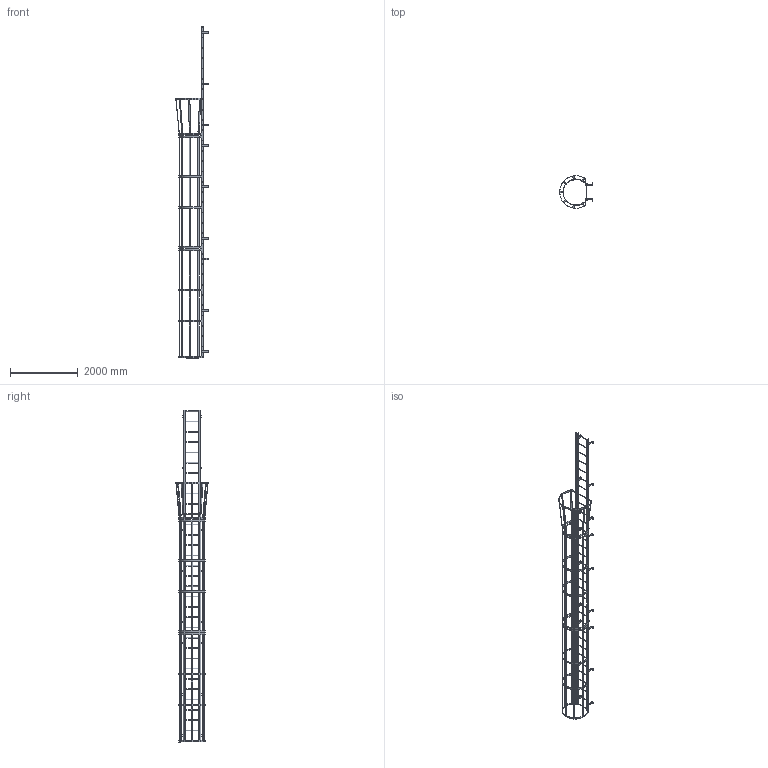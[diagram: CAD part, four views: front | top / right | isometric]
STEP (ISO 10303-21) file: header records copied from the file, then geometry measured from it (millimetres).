
FILE_DESCRIPTION(/* description */ (''),/* implementation_level */ '2;1');
FILE_NAME(/* name */ 'P:\MIKEL & KAREN\D0570195-19 F33SC SIMPLIFIED PART.stp',/* time_stamp */ '2018-07-03T08:11:45-04:00',/* author */ ('stephanie'),/* organization */ (''),/* preprocessor_version */ 'ST-DEVELOPER v16.1',/* originating_system */ 'Autodesk Inventor 2016',/* authorisation */ '');
FILE_SCHEMA (('AUTOMOTIVE_DESIGN { 1 0 10303 214 3 1 1 }'));
Length unit declared in the file: centimetre
Products named in the file (1): D0570195-19 F33SC SIMPLIFIED PART
Bounding box: 974.15 x 977.88 x 9829.8 mm (x, y, z)
Volume: 33552079.4 mm3; surface area: 11920917.3 mm2
Topology: 44 solids, 44 shells, 971 faces, 2933 edges, 1902 vertices
Faces by surface type: plane 648, cylinder 323
Full cylindrical faces by diameter (mm): 14.287 x22, 19.05 x33, 22.225 x66
Entity records: 33188 total; most frequent: ORIENTED_EDGE 5618, CARTESIAN_POINT 5510, DIRECTION 5479, EDGE_CURVE 2724, LINE 1913, VECTOR 1913, VERTEX_POINT 1814, AXIS2_PLACEMENT_3D 1783
